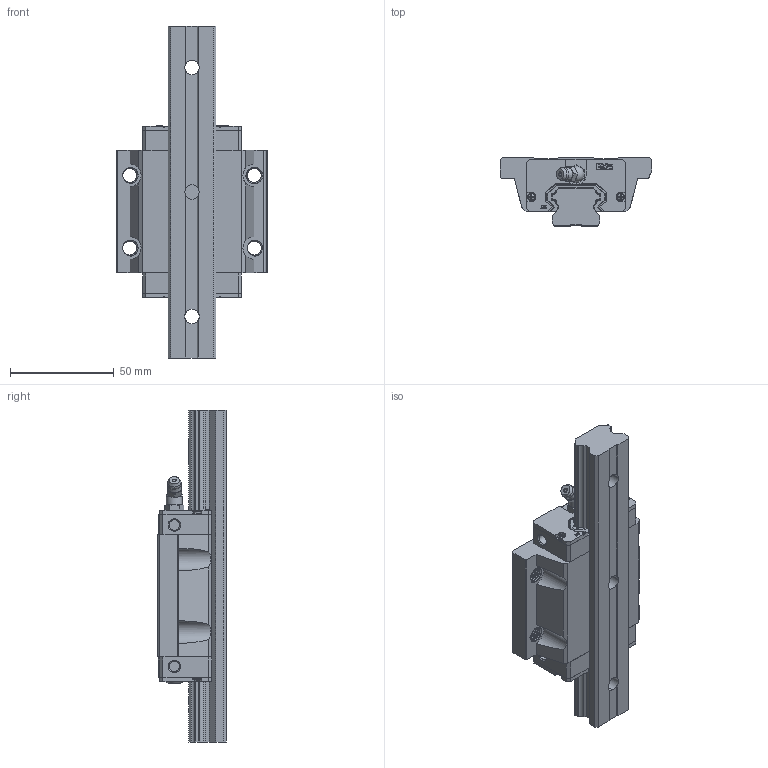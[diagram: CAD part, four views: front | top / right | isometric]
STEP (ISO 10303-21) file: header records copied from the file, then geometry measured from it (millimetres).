
FILE_DESCRIPTION(/* description */ (''),/* implementation_level */ '2;1');
FILE_NAME(/* name */ 'EBW25CA.stp',/* time_stamp */ '2024-09-29T20:45:52+08:00',/* author */ (''),/* organization */ (''),/* preprocessor_version */ 'ST-DEVELOPER v16.7',/* originating_system */ 'SIEMENS PLM Software NX 12.0',/* authorisation */ '');
FILE_SCHEMA (('AUTOMOTIVE_DESIGN { 1 0 10303 214 3 1 1 1 }'));
Products named in the file (3): EBW25CA; EBR25; EBW25CA_stp
Assembly tree (2 placements, depth 2):
  EBW25CA_stp
    EBR25
    EBW25CA
Bounding box: 73 x 33 x 160 mm (x, y, z)
Volume: 148533.4 mm3; surface area: 45779.8 mm2
Topology: 2 solids, 5 shells, 981 faces, 2787 edges, 1825 vertices
Faces by surface type: plane 526, cylinder 224, extrusion 130, cone 55, bspline 24, torus 15, sphere 7
Full cylindrical faces by diameter (mm): 3 x1, 3.7 x1, 5 x4, 7.8 x1, 8.3 x1
Entity records: 64717 total; most frequent: CARTESIAN_POINT 34894, ORIENTED_EDGE 5438, DIRECTION 4308, EDGE_CURVE 2719, VERTEX_POINT 1799, VECTOR 1716, LINE 1586, AXIS2_PLACEMENT_3D 1296
